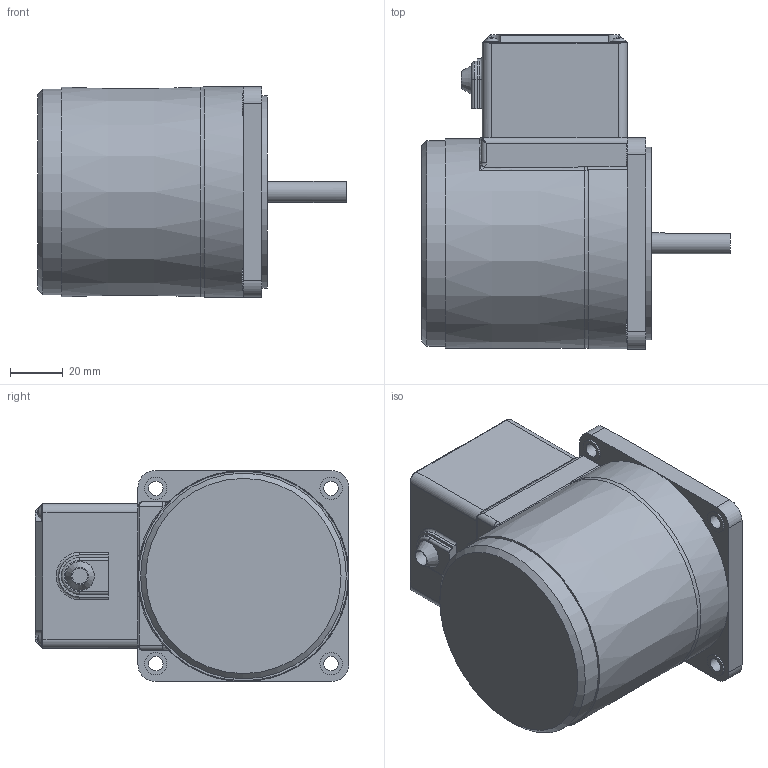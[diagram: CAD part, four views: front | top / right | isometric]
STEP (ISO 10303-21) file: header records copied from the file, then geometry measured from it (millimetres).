
FILE_DESCRIPTION((''),'2;1');
FILE_NAME('D:\STP파일\25W MOTOR\T1 BOX TYPE\S8I15K-T1.stp','2013-05-20T16:44:26',('leebh'),(''),'Autodesk Inventor 2011','Autodesk Inventor 2011','');
FILE_SCHEMA(('AUTOMOTIVE_DESIGN { 1 0 10303 214 1 1 1 1 }'));
Length unit declared in the file: millimetre
Products named in the file (1): 부품3
Bounding box: 117 x 119 x 80 mm (x, y, z)
Volume: 557040.7 mm3; surface area: 46941.7 mm2
Topology: 1 solids, 2 shells, 226 faces, 570 edges, 361 vertices
Faces by surface type: plane 130, cylinder 59, bspline 22, torus 12, cone 3
Full cylindrical faces by diameter (mm): 5.5 x4, 5.6 x4, 8 x2, 8.5 x4, 34 x1, 73 x1, 78 x1
Entity records: 7552 total; most frequent: CARTESIAN_POINT 2310, ORIENTED_EDGE 1054, DIRECTION 1012, EDGE_CURVE 527, AXIS2_PLACEMENT_3D 363, VERTEX_POINT 354, VECTOR 286, LINE 286
